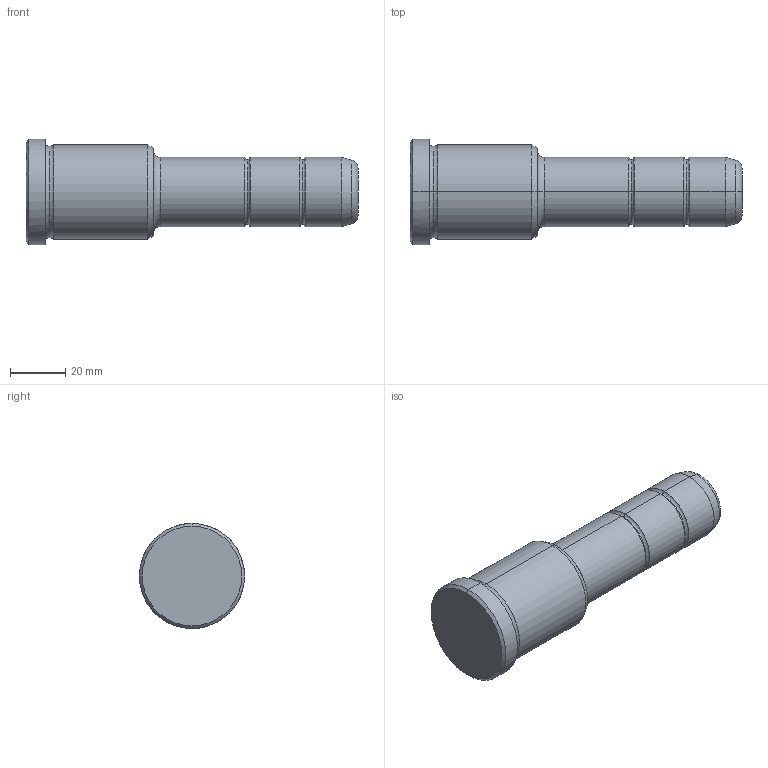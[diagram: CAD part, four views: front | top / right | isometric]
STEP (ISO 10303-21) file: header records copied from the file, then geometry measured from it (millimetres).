
FILE_DESCRIPTION(('CATIA V5 STEP Exchange'),'2;1');
FILE_NAME('C:\Users\Utente\Desktop\IO LAVORO\3D X SITO CF\X SITO\PLASTICA\351\351-25X46X120.stp','2021-08-28T07:37:34+00:00',('none'),('none'),'CATIA Version 5 Release 20 GA (IN-10)','CATIA V5 STEP AP203','none');
FILE_SCHEMA(('CONFIG_CONTROL_DESIGN'));
Length unit declared in the file: millimetre
Products named in the file (1): 351-25X46X120
Bounding box: 120 x 38 x 38 mm (x, y, z)
Volume: 78883.3 mm3; surface area: 12771.6 mm2
Topology: 1 solids, 1 shells, 36 faces, 102 edges, 70 vertices
Faces by surface type: torus 16, cylinder 10, cone 6, plane 4
Entity records: 1292 total; most frequent: CARTESIAN_POINT 321, ORIENTED_EDGE 204, DIRECTION 166, AXIS2_PLACEMENT_3D 115, EDGE_CURVE 102, CIRCLE 78, VERTEX_POINT 70, EDGE_LOOP 38
